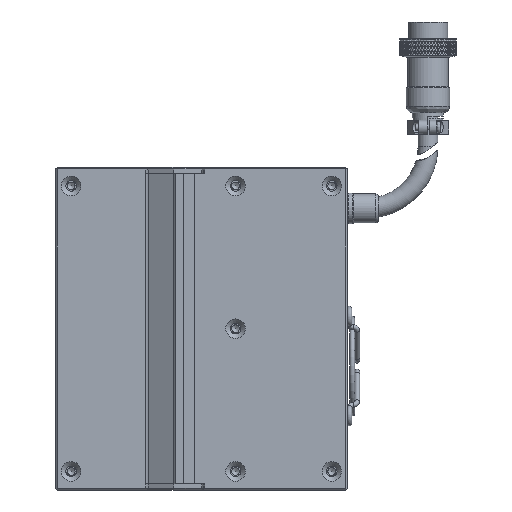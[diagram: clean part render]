
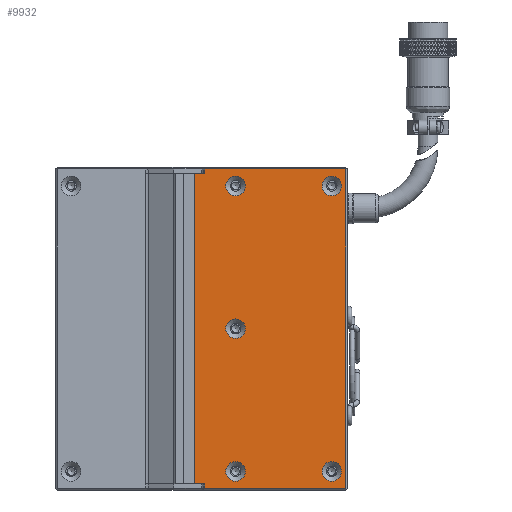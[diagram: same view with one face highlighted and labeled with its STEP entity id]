
A CAD part, left-side view. The second image highlights one B-rep face of the part: STEP entity #9932.
In plain terms, the highlighted planar face has unit normal (-1, 0, 0).
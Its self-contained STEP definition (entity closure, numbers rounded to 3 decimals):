
#64 = EDGE_CURVE ( 'NONE', #66407, #10568, #94715, .T. ) ;
#272 = CARTESIAN_POINT ( 'NONE',  ( -24.998, -23.25, -50. ) ) ;
#562 = DIRECTION ( 'NONE',  ( -1., 0., 0. ) ) ;
#1943 = EDGE_CURVE ( 'NONE', #108126, #108126, #78910, .T. ) ;
#2438 = CARTESIAN_POINT ( 'NONE',  ( -24.998, -67.5, -42.85 ) ) ;
#3207 = DIRECTION ( 'NONE',  ( 1., 0., 0. ) ) ;
#3745 = AXIS2_PLACEMENT_3D ( 'NONE', #98391, #72586, #44789 ) ;
#5927 = CARTESIAN_POINT ( 'NONE',  ( -24.998, -36.5, 49.15 ) ) ;
#6328 = CARTESIAN_POINT ( 'NONE',  ( -24.998, -36.5, -42.85 ) ) ;
#8560 = CARTESIAN_POINT ( 'NONE',  ( -24.998, -67.5, 46. ) ) ;
#9242 = LINE ( 'NONE', #58625, #111344 ) ;
#9276 = ORIENTED_EDGE ( 'NONE', *, *, #1943, .F. ) ;
#9932 = ADVANCED_FACE ( 'NONE', ( #51161, #55384, #58245, #73867, #39729, #34073 ), #47558, .F. ) ;
#10393 = VERTEX_POINT ( 'NONE', #22025 ) ;
#10568 = VERTEX_POINT ( 'NONE', #63672 ) ;
#12484 = VERTEX_POINT ( 'NONE', #40637 ) ;
#13192 = CARTESIAN_POINT ( 'NONE',  ( -24.998, -72.5, 51.5 ) ) ;
#15223 = LINE ( 'NONE', #43863, #27895 ) ;
#16975 = DIRECTION ( 'NONE',  ( -1., 0., 0. ) ) ;
#17116 = EDGE_CURVE ( 'NONE', #39680, #78799, #100273, .T. ) ;
#19178 = DIRECTION ( 'NONE',  ( 0., 0., 1. ) ) ;
#20456 = CARTESIAN_POINT ( 'NONE',  ( -24.998, -72.5, -50. ) ) ;
#22025 = CARTESIAN_POINT ( 'NONE',  ( -24.998, -23.25, 50. ) ) ;
#22499 = VERTEX_POINT ( 'NONE', #39758 ) ;
#23884 = EDGE_CURVE ( 'NONE', #12484, #22499, #98825, .T. ) ;
#26236 = VERTEX_POINT ( 'NONE', #61130 ) ;
#27895 = VECTOR ( 'NONE', #44267, 1000. ) ;
#29652 = DIRECTION ( 'NONE',  ( 0., 0., -1. ) ) ;
#29773 = VERTEX_POINT ( 'NONE', #5927 ) ;
#29884 = VERTEX_POINT ( 'NONE', #6328 ) ;
#30265 = DIRECTION ( 'NONE',  ( 0., -1., 0. ) ) ;
#30775 = DIRECTION ( 'NONE',  ( 0., -1., 0. ) ) ;
#31550 = EDGE_LOOP ( 'NONE', ( #9276 ) ) ;
#32787 = CARTESIAN_POINT ( 'NONE',  ( -24.998, -36.5, 3.15 ) ) ;
#32793 = LINE ( 'NONE', #97031, #68258 ) ;
#34073 = FACE_OUTER_BOUND ( 'NONE', #114423, .T. ) ;
#35970 = ORIENTED_EDGE ( 'NONE', *, *, #106114, .F. ) ;
#37054 = ORIENTED_EDGE ( 'NONE', *, *, #93909, .F. ) ;
#37744 = VECTOR ( 'NONE', #30265, 1000. ) ;
#38075 = DIRECTION ( 'NONE',  ( 0., 0., 1. ) ) ;
#38739 = EDGE_LOOP ( 'NONE', ( #35970 ) ) ;
#39280 = CARTESIAN_POINT ( 'NONE',  ( -24.998, -23.25, -50. ) ) ;
#39677 = VERTEX_POINT ( 'NONE', #32787 ) ;
#39680 = VERTEX_POINT ( 'NONE', #65252 ) ;
#39729 = FACE_BOUND ( 'NONE', #38739, .T. ) ;
#39758 = CARTESIAN_POINT ( 'NONE',  ( -24.998, -72., -51.5 ) ) ;
#40637 = CARTESIAN_POINT ( 'NONE',  ( -24.998, -26.5, -51.5 ) ) ;
#40890 = CIRCLE ( 'NONE', #100432, 3.15 ) ;
#43863 = CARTESIAN_POINT ( 'NONE',  ( -24.998, -26.5, -43. ) ) ;
#44267 = DIRECTION ( 'NONE',  ( 0., 0., -1. ) ) ;
#44789 = DIRECTION ( 'NONE',  ( 0., 0., 1. ) ) ;
#45338 = DIRECTION ( 'NONE',  ( -1., 0., 0. ) ) ;
#47558 = PLANE ( 'NONE',  #95973 ) ;
#47609 = AXIS2_PLACEMENT_3D ( 'NONE', #49018, #111686, #66901 ) ;
#49018 = CARTESIAN_POINT ( 'NONE',  ( -24.998, -67.5, -46. ) ) ;
#49098 = CARTESIAN_POINT ( 'NONE',  ( -24.998, -67.5, 49.15 ) ) ;
#49942 = CARTESIAN_POINT ( 'NONE',  ( -24.998, -26.5, 51.5 ) ) ;
#50610 = ORIENTED_EDGE ( 'NONE', *, *, #78442, .F. ) ;
#51161 = FACE_BOUND ( 'NONE', #31550, .T. ) ;
#52401 = EDGE_CURVE ( 'NONE', #22499, #39680, #32793, .T. ) ;
#55384 = FACE_BOUND ( 'NONE', #68135, .T. ) ;
#55624 = AXIS2_PLACEMENT_3D ( 'NONE', #83361, #562, #38075 ) ;
#57325 = CARTESIAN_POINT ( 'NONE',  ( -24.998, -72.5, -51.5 ) ) ;
#58245 = FACE_BOUND ( 'NONE', #69845, .T. ) ;
#58376 = DIRECTION ( 'NONE',  ( 0., 0., -1. ) ) ;
#58625 = CARTESIAN_POINT ( 'NONE',  ( -24.998, -72.5, 50. ) ) ;
#59509 = CIRCLE ( 'NONE', #73580, 3.15 ) ;
#60006 = EDGE_CURVE ( 'NONE', #115055, #115055, #59509, .T. ) ;
#61130 = CARTESIAN_POINT ( 'NONE',  ( -24.998, -26.5, 50. ) ) ;
#61502 = EDGE_CURVE ( 'NONE', #78799, #26236, #100491, .T. ) ;
#61510 = EDGE_CURVE ( 'NONE', #66407, #10393, #86229, .T. ) ;
#62185 = VECTOR ( 'NONE', #102795, 1000. ) ;
#62487 = ORIENTED_EDGE ( 'NONE', *, *, #61502, .T. ) ;
#63672 = CARTESIAN_POINT ( 'NONE',  ( -24.998, -26.5, -50. ) ) ;
#65252 = CARTESIAN_POINT ( 'NONE',  ( -24.998, -72., 51.5 ) ) ;
#66407 = VERTEX_POINT ( 'NONE', #272 ) ;
#66901 = DIRECTION ( 'NONE',  ( 0., 0., 1. ) ) ;
#67762 = VECTOR ( 'NONE', #101395, 1000. ) ;
#68135 = EDGE_LOOP ( 'NONE', ( #50610 ) ) ;
#68258 = VECTOR ( 'NONE', #70872, 1000. ) ;
#69087 = EDGE_LOOP ( 'NONE', ( #105893 ) ) ;
#69845 = EDGE_LOOP ( 'NONE', ( #37054 ) ) ;
#70872 = DIRECTION ( 'NONE',  ( 0., 0., 1. ) ) ;
#71334 = CARTESIAN_POINT ( 'NONE',  ( -24.998, -36.5, 46. ) ) ;
#72586 = DIRECTION ( 'NONE',  ( -1., 0., 0. ) ) ;
#73580 = AXIS2_PLACEMENT_3D ( 'NONE', #8560, #45338, #19178 ) ;
#73867 = FACE_BOUND ( 'NONE', #69087, .T. ) ;
#75648 = ORIENTED_EDGE ( 'NONE', *, *, #64, .T. ) ;
#78334 = ORIENTED_EDGE ( 'NONE', *, *, #23884, .T. ) ;
#78442 = EDGE_CURVE ( 'NONE', #29884, #29884, #83712, .T. ) ;
#78799 = VERTEX_POINT ( 'NONE', #49942 ) ;
#78910 = CIRCLE ( 'NONE', #47609, 3.15 ) ;
#80061 = ORIENTED_EDGE ( 'NONE', *, *, #61510, .F. ) ;
#83030 = EDGE_CURVE ( 'NONE', #10568, #12484, #15223, .T. ) ;
#83298 = CARTESIAN_POINT ( 'NONE',  ( -24.998, -72.5, 50. ) ) ;
#83361 = CARTESIAN_POINT ( 'NONE',  ( -24.998, -36.5, -46. ) ) ;
#83712 = CIRCLE ( 'NONE', #55624, 3.15 ) ;
#86229 = LINE ( 'NONE', #39280, #62185 ) ;
#86711 = EDGE_CURVE ( 'NONE', #10393, #26236, #9242, .T. ) ;
#88046 = ORIENTED_EDGE ( 'NONE', *, *, #52401, .T. ) ;
#93909 = EDGE_CURVE ( 'NONE', #29773, #29773, #40890, .T. ) ;
#94715 = LINE ( 'NONE', #20456, #67762 ) ;
#95973 = AXIS2_PLACEMENT_3D ( 'NONE', #83298, #3207, #29652 ) ;
#97031 = CARTESIAN_POINT ( 'NONE',  ( -24.998, -72., 50. ) ) ;
#98391 = CARTESIAN_POINT ( 'NONE',  ( -24.998, -36.5, 0. ) ) ;
#98825 = LINE ( 'NONE', #57325, #37744 ) ;
#100273 = LINE ( 'NONE', #13192, #104486 ) ;
#100432 = AXIS2_PLACEMENT_3D ( 'NONE', #71334, #16975, #106985 ) ;
#100491 = LINE ( 'NONE', #103565, #111829 ) ;
#101395 = DIRECTION ( 'NONE',  ( 0., -1., 0. ) ) ;
#102795 = DIRECTION ( 'NONE',  ( 0., 0., 1. ) ) ;
#103565 = CARTESIAN_POINT ( 'NONE',  ( -24.998, -26.5, 43. ) ) ;
#104486 = VECTOR ( 'NONE', #114652, 1000. ) ;
#105893 = ORIENTED_EDGE ( 'NONE', *, *, #60006, .F. ) ;
#106114 = EDGE_CURVE ( 'NONE', #39677, #39677, #108137, .T. ) ;
#106985 = DIRECTION ( 'NONE',  ( 0., 0., 1. ) ) ;
#108126 = VERTEX_POINT ( 'NONE', #2438 ) ;
#108137 = CIRCLE ( 'NONE', #3745, 3.15 ) ;
#109969 = ORIENTED_EDGE ( 'NONE', *, *, #17116, .T. ) ;
#111344 = VECTOR ( 'NONE', #30775, 1000. ) ;
#111686 = DIRECTION ( 'NONE',  ( -1., 0., 0. ) ) ;
#111829 = VECTOR ( 'NONE', #58376, 1000. ) ;
#113730 = ORIENTED_EDGE ( 'NONE', *, *, #83030, .T. ) ;
#114423 = EDGE_LOOP ( 'NONE', ( #75648, #113730, #78334, #88046, #109969, #62487, #115618, #80061 ) ) ;
#114652 = DIRECTION ( 'NONE',  ( 0., 1., 0. ) ) ;
#115055 = VERTEX_POINT ( 'NONE', #49098 ) ;
#115618 = ORIENTED_EDGE ( 'NONE', *, *, #86711, .F. ) ;
